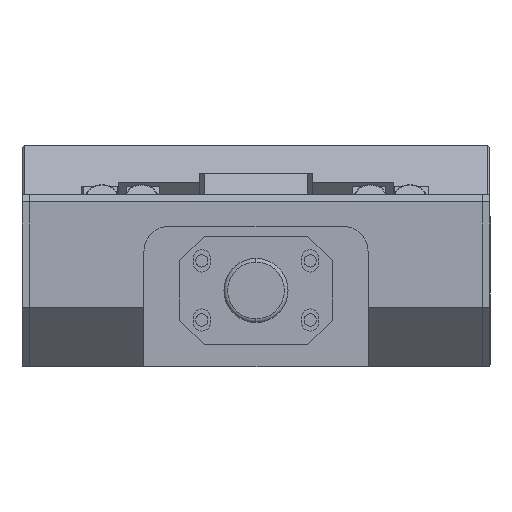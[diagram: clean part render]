
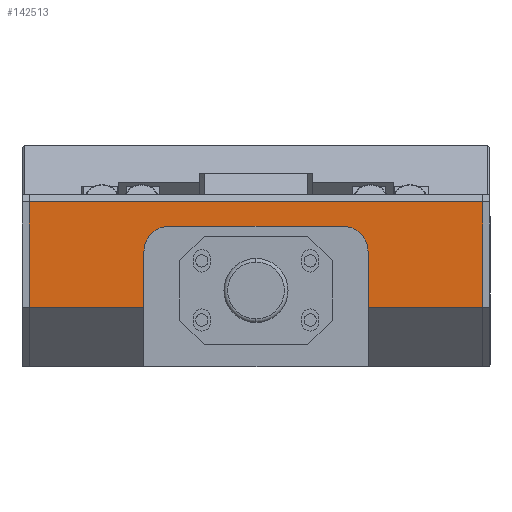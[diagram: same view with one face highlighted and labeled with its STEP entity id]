
A CAD part, left-side view. The second image highlights one B-rep face of the part: STEP entity #142513.
In plain terms, the highlighted planar face has unit normal (-1, 0, 0).
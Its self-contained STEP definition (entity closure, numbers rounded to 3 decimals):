
#886 = CARTESIAN_POINT ( 'NONE',  ( -124., -45.5, 24. ) ) ;
#1665 = EDGE_CURVE ( 'NONE', #37214, #42965, #55928, .T. ) ;
#2234 = ORIENTED_EDGE ( 'NONE', *, *, #19761, .F. ) ;
#5847 = CIRCLE ( 'NONE', #137949, 10. ) ;
#13877 = ORIENTED_EDGE ( 'NONE', *, *, #149644, .F. ) ;
#18044 = DIRECTION ( 'NONE',  ( 0., 0., -1. ) ) ;
#19761 = EDGE_CURVE ( 'NONE', #90876, #31869, #101666, .T. ) ;
#21361 = CARTESIAN_POINT ( 'NONE',  ( -124., 35.5, 57. ) ) ;
#24153 = VECTOR ( 'NONE', #18044, 1000. ) ;
#24715 = EDGE_CURVE ( 'NONE', #82799, #75095, #116044, .T. ) ;
#27029 = CARTESIAN_POINT ( 'NONE',  ( -124., 80., 24. ) ) ;
#29371 = CIRCLE ( 'NONE', #51080, 10. ) ;
#30416 = PLANE ( 'NONE',  #68322 ) ;
#30663 = VECTOR ( 'NONE', #101844, 1000. ) ;
#31869 = VERTEX_POINT ( 'NONE', #42628 ) ;
#32551 = EDGE_CURVE ( 'NONE', #80290, #121477, #38332, .T. ) ;
#33532 = CARTESIAN_POINT ( 'NONE',  ( -124., 92., 24. ) ) ;
#34582 = VECTOR ( 'NONE', #112829, 1000. ) ;
#34771 = LINE ( 'NONE', #117609, #126350 ) ;
#36063 = CARTESIAN_POINT ( 'NONE',  ( -124., 92., 67. ) ) ;
#37214 = VERTEX_POINT ( 'NONE', #36063 ) ;
#37862 = VECTOR ( 'NONE', #146608, 1000. ) ;
#38332 = LINE ( 'NONE', #136882, #34582 ) ;
#38822 = DIRECTION ( 'NONE',  ( 0., 1., 0. ) ) ;
#41799 = CARTESIAN_POINT ( 'NONE',  ( -124., -92., 67. ) ) ;
#42628 = CARTESIAN_POINT ( 'NONE',  ( -124., -92., 24. ) ) ;
#42965 = VERTEX_POINT ( 'NONE', #33532 ) ;
#43957 = ORIENTED_EDGE ( 'NONE', *, *, #32551, .F. ) ;
#46847 = CARTESIAN_POINT ( 'NONE',  ( -124., -92., 67. ) ) ;
#48244 = VECTOR ( 'NONE', #71892, 1000. ) ;
#49615 = ORIENTED_EDGE ( 'NONE', *, *, #91991, .T. ) ;
#50133 = CARTESIAN_POINT ( 'NONE',  ( -124., 45.5, 47. ) ) ;
#51080 = AXIS2_PLACEMENT_3D ( 'NONE', #125037, #53484, #137041 ) ;
#53484 = DIRECTION ( 'NONE',  ( 1., 0., 0. ) ) ;
#55928 = LINE ( 'NONE', #77535, #24153 ) ;
#56434 = LINE ( 'NONE', #122909, #80683 ) ;
#57026 = ORIENTED_EDGE ( 'NONE', *, *, #106160, .T. ) ;
#58960 = ORIENTED_EDGE ( 'NONE', *, *, #69319, .T. ) ;
#60122 = VERTEX_POINT ( 'NONE', #886 ) ;
#66348 = CARTESIAN_POINT ( 'NONE',  ( -124., 35.5, 47. ) ) ;
#66399 = DIRECTION ( 'NONE',  ( 1., 0., 0. ) ) ;
#68322 = AXIS2_PLACEMENT_3D ( 'NONE', #101932, #66399, #149948 ) ;
#69319 = EDGE_CURVE ( 'NONE', #42965, #121477, #69571, .T. ) ;
#69571 = LINE ( 'NONE', #27029, #37862 ) ;
#71892 = DIRECTION ( 'NONE',  ( 0., 0., 1. ) ) ;
#75095 = VERTEX_POINT ( 'NONE', #21361 ) ;
#77535 = CARTESIAN_POINT ( 'NONE',  ( -124., 92., 67. ) ) ;
#78343 = DIRECTION ( 'NONE',  ( 0., 1., 0. ) ) ;
#79970 = LINE ( 'NONE', #143448, #48244 ) ;
#80290 = VERTEX_POINT ( 'NONE', #50133 ) ;
#80506 = CARTESIAN_POINT ( 'NONE',  ( -124., 45.5, 57. ) ) ;
#80683 = VECTOR ( 'NONE', #38822, 1000. ) ;
#82799 = VERTEX_POINT ( 'NONE', #144780 ) ;
#84590 = FACE_OUTER_BOUND ( 'NONE', #147826, .T. ) ;
#86991 = ORIENTED_EDGE ( 'NONE', *, *, #130408, .T. ) ;
#90876 = VERTEX_POINT ( 'NONE', #46847 ) ;
#91991 = EDGE_CURVE ( 'NONE', #82799, #99389, #29371, .T. ) ;
#92513 = DIRECTION ( 'NONE',  ( 0., 1., 0. ) ) ;
#92644 = CARTESIAN_POINT ( 'NONE',  ( -124., -45.5, 47. ) ) ;
#99389 = VERTEX_POINT ( 'NONE', #92644 ) ;
#101666 = LINE ( 'NONE', #41799, #30663 ) ;
#101844 = DIRECTION ( 'NONE',  ( 0., 0., -1. ) ) ;
#101932 = CARTESIAN_POINT ( 'NONE',  ( -124., 80., 70. ) ) ;
#102636 = ORIENTED_EDGE ( 'NONE', *, *, #1665, .T. ) ;
#104407 = ORIENTED_EDGE ( 'NONE', *, *, #24715, .F. ) ;
#106160 = EDGE_CURVE ( 'NONE', #80290, #75095, #5847, .T. ) ;
#112092 = ORIENTED_EDGE ( 'NONE', *, *, #143413, .T. ) ;
#112829 = DIRECTION ( 'NONE',  ( 0., 0., -1. ) ) ;
#116044 = LINE ( 'NONE', #80506, #151543 ) ;
#117609 = CARTESIAN_POINT ( 'NONE',  ( -124., 80., 24. ) ) ;
#121477 = VERTEX_POINT ( 'NONE', #145560 ) ;
#122909 = CARTESIAN_POINT ( 'NONE',  ( -124., 80., 67. ) ) ;
#125037 = CARTESIAN_POINT ( 'NONE',  ( -124., -35.5, 47. ) ) ;
#126350 = VECTOR ( 'NONE', #129640, 1000. ) ;
#129640 = DIRECTION ( 'NONE',  ( 0., -1., 0. ) ) ;
#130408 = EDGE_CURVE ( 'NONE', #60122, #31869, #34771, .T. ) ;
#136882 = CARTESIAN_POINT ( 'NONE',  ( -124., 45.5, 0. ) ) ;
#137041 = DIRECTION ( 'NONE',  ( 0., 1., 0. ) ) ;
#137949 = AXIS2_PLACEMENT_3D ( 'NONE', #66348, #149896, #78343 ) ;
#142513 = ADVANCED_FACE ( 'NONE', ( #84590 ), #30416, .F. ) ;
#143413 = EDGE_CURVE ( 'NONE', #90876, #37214, #56434, .T. ) ;
#143448 = CARTESIAN_POINT ( 'NONE',  ( -124., -45.5, 57. ) ) ;
#144780 = CARTESIAN_POINT ( 'NONE',  ( -124., -35.5, 57. ) ) ;
#145560 = CARTESIAN_POINT ( 'NONE',  ( -124., 45.5, 24. ) ) ;
#146608 = DIRECTION ( 'NONE',  ( 0., -1., 0. ) ) ;
#147826 = EDGE_LOOP ( 'NONE', ( #112092, #102636, #58960, #43957, #57026, #104407, #49615, #13877, #86991, #2234 ) ) ;
#149644 = EDGE_CURVE ( 'NONE', #60122, #99389, #79970, .T. ) ;
#149896 = DIRECTION ( 'NONE',  ( 1., 0., 0. ) ) ;
#149948 = DIRECTION ( 'NONE',  ( 0., 1., 0. ) ) ;
#151543 = VECTOR ( 'NONE', #92513, 1000. ) ;
